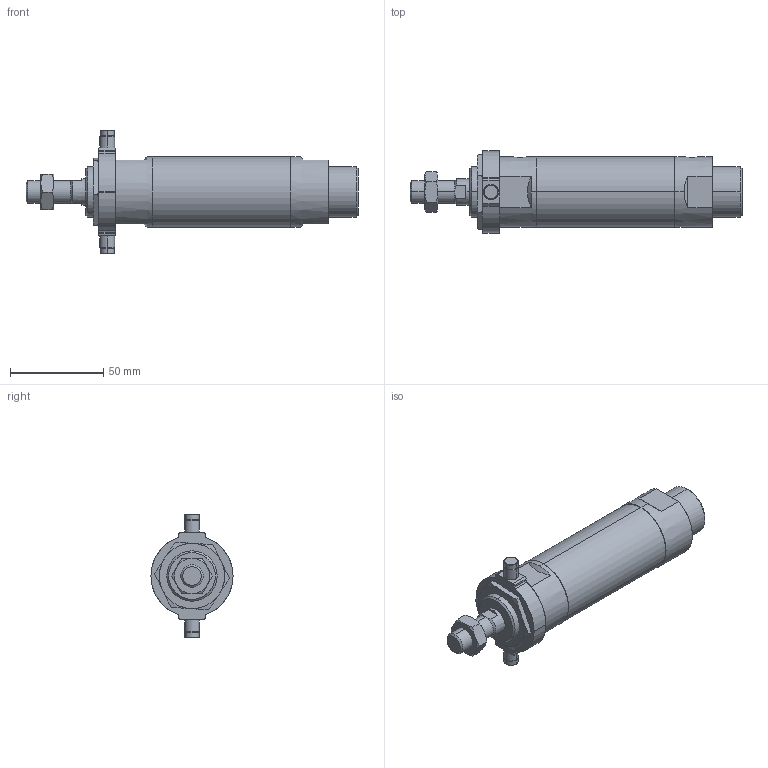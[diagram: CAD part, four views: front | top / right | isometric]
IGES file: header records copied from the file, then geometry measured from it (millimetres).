
Start section: SolidWorks IGES file using analytic representation for surfaces
Global section: file name: C:\Users\Toshiba\Desktop\J#2-32-25-T.IGS; native system: SolidWorks 2014; preprocessor: SolidWorks 2014; author: Toshiba; date: 160308.153126; units: millimetre
Bounding box: 178 x 44 x 66 mm (x, y, z)
Surface area: 28143.9 mm2 (no closed solid volume)
Topology: 0 solids, 0 shells, 133 faces, 2156 edges, 2152 vertices
Faces by surface type: bspline 67, revolution 66
